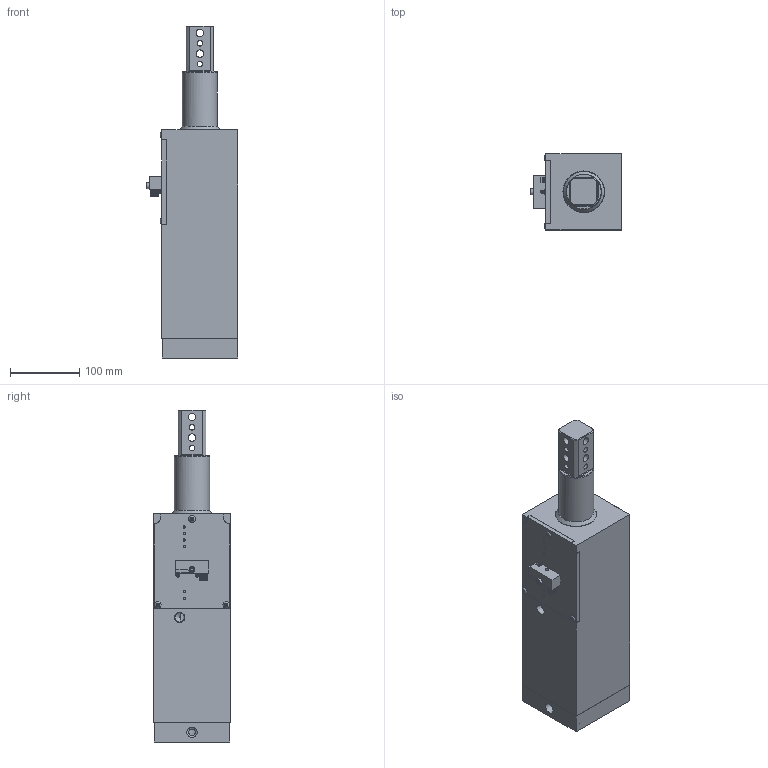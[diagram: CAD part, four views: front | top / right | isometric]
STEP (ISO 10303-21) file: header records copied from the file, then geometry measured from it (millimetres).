
FILE_DESCRIPTION(/* description */ (''),/* implementation_level */ '2;1');
FILE_NAME(/* name */ 'M:\cad\PRODUCT\LSA\LSA - 105\STEP\LSA-105\75mm Stroke\LSA-105 75mm - Extend.stp',/* time_stamp */ '2018-04-20T09:53:01-04:00',/* author */ ('Tyler'),/* organization */ (''),/* preprocessor_version */ 'ST-DEVELOPER v17',/* originating_system */ 'Autodesk Inventor 2018',/* authorisation */ '');
FILE_SCHEMA (('AUTOMOTIVE_DESIGN { 1 0 10303 214 3 1 1 }'));
Length unit declared in the file: inch
Products named in the file (1): LSA-105  75_100 Stroke - Stripped for STEP_75 Extend
Bounding box: 132.75 x 110.01 x 479.95 mm (x, y, z)
Volume: 3043789 mm3; surface area: 324859.4 mm2
Topology: 1 solids, 1 shells, 558 faces, 1501 edges, 995 vertices
Faces by surface type: plane 232, cylinder 220, cone 96, torus 5, sphere 3, bspline 2
Full cylindrical faces by diameter (mm): 1 x8, 1.397 x1, 1.842 x1, 2 x2, 2.464 x1, 3.175 x2, 3.251 x1, 3.264 x6, 3.961 x29, 4.14 x7, 4.928 x4, 5 x23, 5.3 x4, 5.5 x2, 6.35 x1, 6.502 x4, 8.019 x8, 8.3 x1, 8.382 x4, 8.5 x1, 9.5 x3, 9.525 x1, 10.02 x2, 10.49 x4, 10.5 x1, 10.998 x8, 12 x1, 13.894 x1, 14.287 x1, 14.808 x1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
Entity records: 24424 total; most frequent: CARTESIAN_POINT 9568, DIRECTION 3006, ORIENTED_EDGE 2978, EDGE_CURVE 1489, AXIS2_PLACEMENT_3D 1165, VERTEX_POINT 995, LINE 676, VECTOR 676
